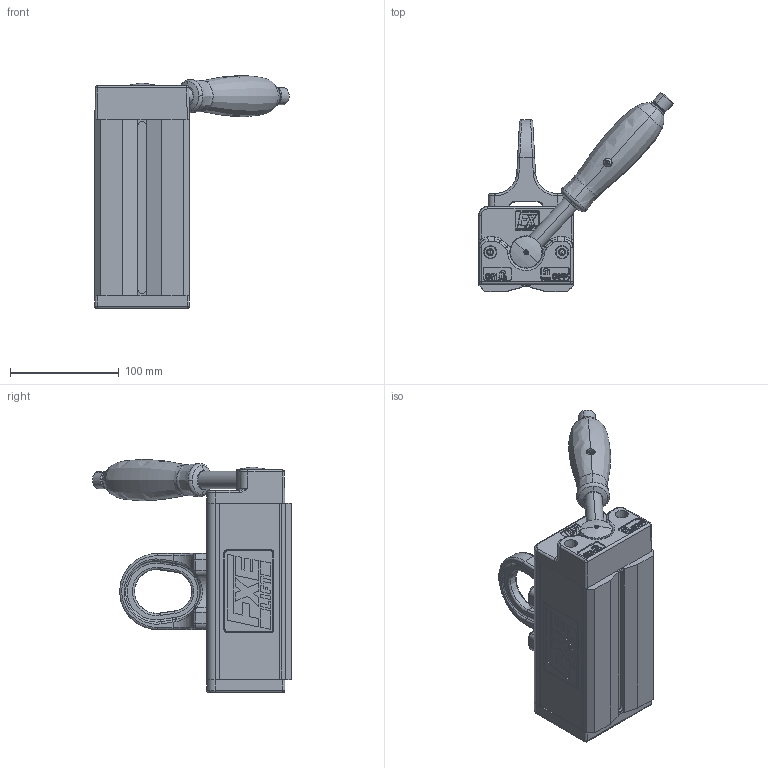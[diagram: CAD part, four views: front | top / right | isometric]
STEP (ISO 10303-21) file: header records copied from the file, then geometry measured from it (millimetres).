
FILE_DESCRIPTION (( 'STEP AP214' ), '1' );
FILE_NAME ('FX 300.STEP', '2016-06-15T08:09:58', ( '' ), ( '' ), 'SwSTEP 2.0', 'SolidWorks 2013', '' );
FILE_SCHEMA (( 'AUTOMOTIVE_DESIGN' ));
Length unit declared in the file: millimetre
Products named in the file (1): FX 300
Bounding box: 178.79 x 182.97 x 214.54 mm (x, y, z)
Surface area: 142742.4 mm2 (no closed solid volume)
Topology: 0 solids, 21 shells, 941 faces, 2998 edges, 1961 vertices
Faces by surface type: plane 399, bspline 275, cylinder 154, cone 91, torus 18, sphere 4
Entity records: 60438 total; most frequent: CARTESIAN_POINT 26698, ORIENTED_EDGE 4930, DIRECTION 4072, EDGE_CURVE 2941, VERTEX_POINT 1961, VECTOR 1492, LINE 1492, AXIS2_PLACEMENT_3D 1290
